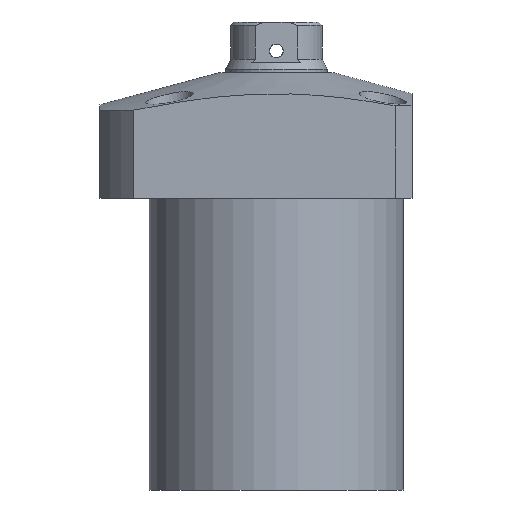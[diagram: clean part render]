
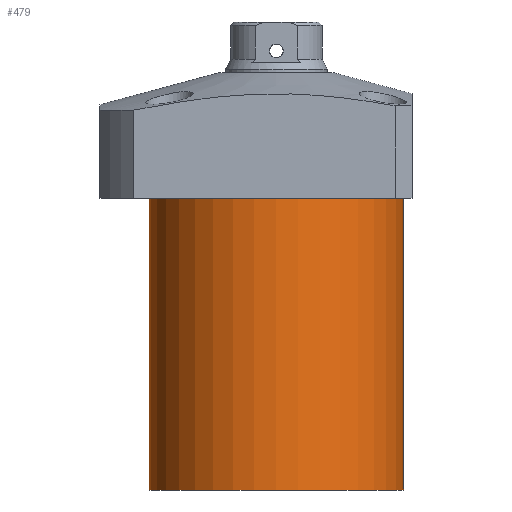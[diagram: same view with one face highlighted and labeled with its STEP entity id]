
A CAD part, front view. The second image highlights one B-rep face of the part: STEP entity #479.
In plain terms, the highlighted cylindrical face has radius 37.5 mm (diameter 75 mm), a partial arc.
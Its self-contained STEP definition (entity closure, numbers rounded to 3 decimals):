
#89 = CIRCLE ( 'NONE', #2574, 37.5 ) ;
#90 = VECTOR ( 'NONE', #1357, 1000. ) ;
#216 = CARTESIAN_POINT ( 'NONE',  ( -37.5, 0., -18.5 ) ) ;
#222 = VECTOR ( 'NONE', #2228, 1000. ) ;
#261 = CARTESIAN_POINT ( 'NONE',  ( 37.5, 0., -104.5 ) ) ;
#345 = CARTESIAN_POINT ( 'NONE',  ( 37.5, 0., -18.5 ) ) ;
#389 = CYLINDRICAL_SURFACE ( 'NONE', #2429, 37.5 ) ;
#479 = ADVANCED_FACE ( 'NONE', ( #938 ), #389, .T. ) ;
#546 = ORIENTED_EDGE ( 'NONE', *, *, #2536, .F. ) ;
#565 = DIRECTION ( 'NONE',  ( 0., 0., 1. ) ) ;
#723 = CARTESIAN_POINT ( 'NONE',  ( -37.5, 0., -104.5 ) ) ;
#724 = CARTESIAN_POINT ( 'NONE',  ( 37.5, 0., -104.5 ) ) ;
#748 = VERTEX_POINT ( 'NONE', #216 ) ;
#774 = EDGE_CURVE ( 'NONE', #2740, #2150, #1389, .T. ) ;
#834 = AXIS2_PLACEMENT_3D ( 'NONE', #1313, #1305, #2396 ) ;
#887 = ORIENTED_EDGE ( 'NONE', *, *, #1629, .T. ) ;
#938 = FACE_OUTER_BOUND ( 'NONE', #2382, .T. ) ;
#996 = DIRECTION ( 'NONE',  ( 1., 0., 0. ) ) ;
#1036 = ORIENTED_EDGE ( 'NONE', *, *, #2583, .T. ) ;
#1088 = LINE ( 'NONE', #2808, #90 ) ;
#1210 = DIRECTION ( 'NONE',  ( 0., 0., -1. ) ) ;
#1305 = DIRECTION ( 'NONE',  ( 0., 0., -1. ) ) ;
#1313 = CARTESIAN_POINT ( 'NONE',  ( 0., 0., -104.5 ) ) ;
#1357 = DIRECTION ( 'NONE',  ( 0., 0., 1. ) ) ;
#1376 = ORIENTED_EDGE ( 'NONE', *, *, #774, .F. ) ;
#1389 = CIRCLE ( 'NONE', #834, 37.5 ) ;
#1629 = EDGE_CURVE ( 'NONE', #1717, #748, #89, .T. ) ;
#1717 = VERTEX_POINT ( 'NONE', #345 ) ;
#2073 = CARTESIAN_POINT ( 'NONE',  ( 0., 0., -104.5 ) ) ;
#2150 = VERTEX_POINT ( 'NONE', #723 ) ;
#2228 = DIRECTION ( 'NONE',  ( 0., 0., 1. ) ) ;
#2382 = EDGE_LOOP ( 'NONE', ( #546, #1376, #1036, #887 ) ) ;
#2396 = DIRECTION ( 'NONE',  ( -1., 0., 0. ) ) ;
#2429 = AXIS2_PLACEMENT_3D ( 'NONE', #2073, #565, #2538 ) ;
#2490 = CARTESIAN_POINT ( 'NONE',  ( 0., 0., -18.5 ) ) ;
#2536 = EDGE_CURVE ( 'NONE', #2150, #748, #1088, .T. ) ;
#2538 = DIRECTION ( 'NONE',  ( 1., 0., 0. ) ) ;
#2574 = AXIS2_PLACEMENT_3D ( 'NONE', #2490, #1210, #996 ) ;
#2583 = EDGE_CURVE ( 'NONE', #2740, #1717, #2714, .T. ) ;
#2714 = LINE ( 'NONE', #261, #222 ) ;
#2740 = VERTEX_POINT ( 'NONE', #724 ) ;
#2808 = CARTESIAN_POINT ( 'NONE',  ( -37.5, 0., -104.5 ) ) ;
